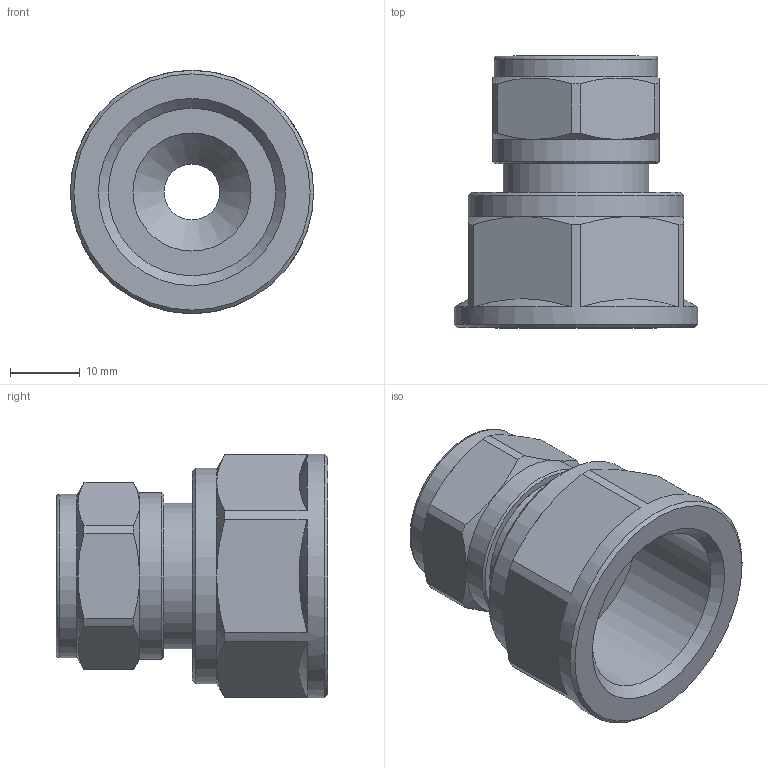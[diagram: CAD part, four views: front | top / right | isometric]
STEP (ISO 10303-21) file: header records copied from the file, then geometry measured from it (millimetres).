
FILE_DESCRIPTION(('STEP AP203'), '1');
FILE_NAME('VTm.302.N.001605', '', ('UNSPECIFIED'), ('UNSPECIFIED'), 'C3D Converter', 'C3D Toolkit', '');
FILE_SCHEMA(('CONFIG_CONTROL_DESIGN'));
Length unit declared in the file: millimetre
Products named in the file (1): ВР.302634.060.000 СБ
Bounding box: 35 x 39.11 x 35 mm (x, y, z)
Volume: 14240.2 mm3; surface area: 9907.5 mm2
Topology: 2 solids, 2 shells, 299 faces, 792 edges, 519 vertices
Faces by surface type: extrusion 111, plane 97, cone 33, cylinder 31, torus 27
Full cylindrical faces by diameter (mm): 8 x1, 11.75 x4, 12.4 x1, 16.2 x1, 16.7 x1, 18.632 x1, 20.955 x1, 23.5 x1, 24 x1, 24.118 x1, 31 x1, 35 x1
Entity records: 10999 total; most frequent: CARTESIAN_POINT 4220, ORIENTED_EDGE 1506, DIRECTION 1047, EDGE_CURVE 753, VERTEX_POINT 519, VECTOR 421, B_SPLINE_CURVE_WITH_KNOTS 410, EDGE_LOOP 362
